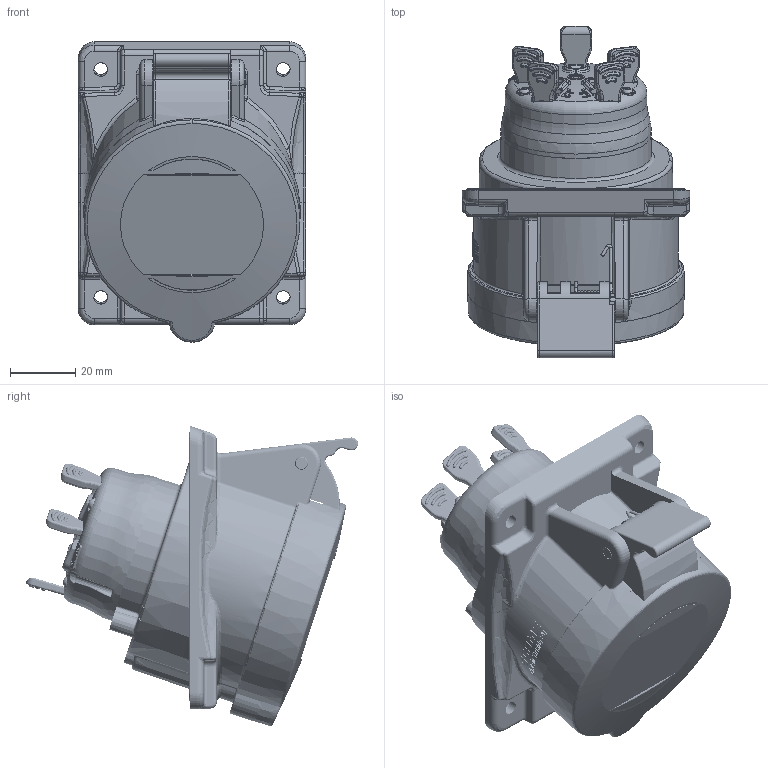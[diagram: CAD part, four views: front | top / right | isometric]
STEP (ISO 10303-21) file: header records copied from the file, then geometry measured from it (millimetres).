
FILE_DESCRIPTION(/* description */ (''),/* implementation_level */ '2;1');
FILE_NAME(/* name */ '4001806.stp',/* time_stamp */ '2019-04-12T08:49:35+02:00',/* author */ (''),/* organization */ (''),/* preprocessor_version */ 'ST-DEVELOPER v16.7',/* originating_system */ 'SIEMENS PLM Software NX 1855',/* authorisation */ '');
FILE_SCHEMA (('AUTOMOTIVE_DESIGN { 1 0 10303 214 3 1 1 1 }'));
Length unit declared in the file: millimetre
Products named in the file (1): BSOM605861F5ubsw
Bounding box: 70 x 102.04 x 92.31 mm (x, y, z)
Volume: 123010.4 mm3; surface area: 110796.4 mm2
Topology: 27 solids, 27 shells, 5506 faces, 14021 edges, 8537 vertices
Faces by surface type: bspline 1790, plane 1630, cylinder 1457, extrusion 193, torus 191, cone 167, sphere 68, revolution 10
Full cylindrical faces by diameter (mm): 0.998 x4, 1.9 x4, 2.4 x4, 2.5 x4, 2.7 x4, 3.2 x5, 4 x5, 4.2 x1, 4.25 x4, 4.3 x2, 5 x2, 46.2 x1
Entity records: 296226 total; most frequent: CARTESIAN_POINT 176371, ORIENTED_EDGE 27428, DIRECTION 19371, EDGE_CURVE 13714, VERTEX_POINT 8496, AXIS2_PLACEMENT_3D 6863, EDGE_LOOP 5836, VECTOR 5635
